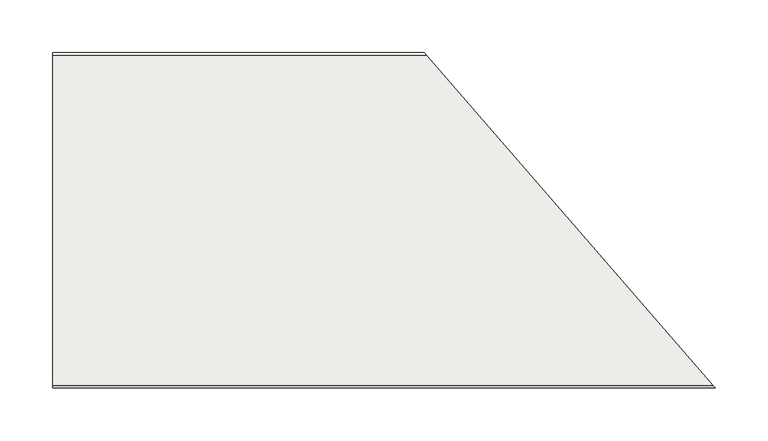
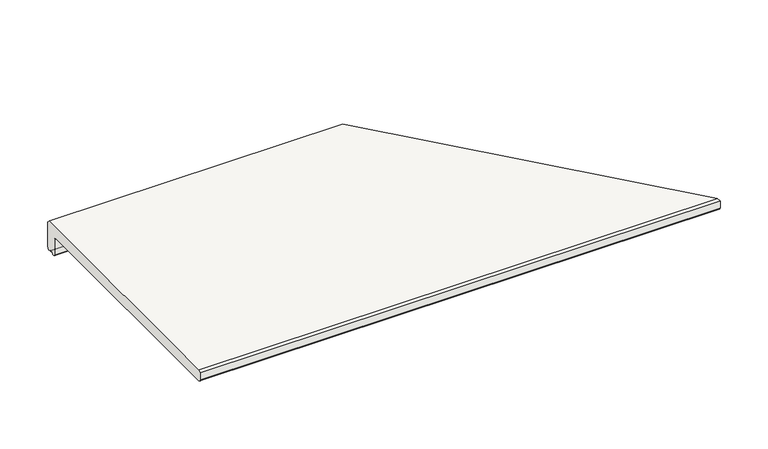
"""IFC4 building model written with IfcOpenShell, lengths in millimetres: slab geometry, ROSA GRES_L62 (corte-profundidad) : Pieza L62_Mistery_Grey_Anti-Slip."""

from ifc_helpers import new_model, si_unit, frame, origin, place, context, project, spatial, polyline, circle_curve, ellipse_curve, source, transform, mapped, element, save
from ifc_brep_helpers import plane_surface, cylinder_surface, revolved_surface, advanced_brep


def slab_cee870ff(model_context):
    return source(origin(), model_context, "Body", "AdvancedBrep", [
        advanced_brep(
        [(0.0, -11.8865989, -24.0), (0.0, -13.8100559, -22.076543), (0.0, -13.8100559, -2.5683173), (0.0, -16.4230659, 0.0446927), (0.0, -314.5178771, 0.0446927), (0.0, -317.0, 2.5268156), (0.0, -317.0, 11.5), (0.0, -314.5, 14.0), (0.0, -2.5, 14.0), (0.0, 0.0, 11.5), (0.0, 0.0, -20.5), (0.0, -2.5, -23.0), (0.0, -5.422949, -23.0), (0.0, -9.4124925, -23.0), (0.0, -9.4124925, -24.0), (359.1262294, -9.4124925, -24.0), (361.2693676, -11.8865989, -24.0), (355.6703784, -5.422949, -23.0), (359.1262294, -9.4124925, -23.0), (353.1384405, -2.5, -23.0), (350.9728726, 0.0, -20.5), (350.9728726, 0.0, 11.5), (623.4013185, -314.5, 14.0), (353.1384405, -2.5, 14.0), (625.5668864, -317.0, 2.5268156), (625.5668864, -317.0, 11.5), (623.4168041, -314.5178771, 0.0446927), (365.1989786, -16.4230659, 0.0446927), (362.9355183, -13.8100559, -2.5683173), (362.9355183, -13.8100559, -22.076543)],
        [
            (0, 1, circle_curve(frame((0.0, -11.8865989, -22.076543), z_axis=(-1.0, 0.0, 0.0), x_axis=(0.0, -1.0, 0.0)), 1.923457)),
            (1, 2),
            (2, 3, circle_curve(frame((0.0, -16.4230659, -2.5683173), z_axis=(1.0, 0.0, 0.0), x_axis=(0.0, -1.0, 0.0)), 2.6130101)),
            (3, 4),
            (4, 5, circle_curve(frame((0.0, -314.5178771, 2.5268156), z_axis=(-1.0, 0.0, 0.0), x_axis=(0.0, -1.0, 0.0)), 2.4821229)),
            (5, 6),
            (6, 7),
            (7, 8),
            (8, 9),
            (9, 10),
            (10, 11, circle_curve(frame((0.0, -2.5, -20.5), z_axis=(-1.0, 0.0, 0.0), x_axis=(0.0, -1.0, 0.0)), 2.5)),
            (11, 12),
            (12, 13, circle_curve(frame((0.0, -7.4177208, -23.0), z_axis=(1.0, 0.0, 0.0), x_axis=(0.0, -1.0, 0.0)), 1.9947717)),
            (13, 14),
            (14, 0),
            (14, 15),
            (15, 16),
            (16, 0),
            (12, 17),
            (17, 18, ellipse_curve(frame((357.3983039, -7.4177208, -23.0), z_axis=(0.7558534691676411, 0.654740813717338, 0.0), x_axis=(0.6547408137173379, -0.7558534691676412, 0.0)), 2.6390985, 1.9947717)),
            (18, 13),
            (11, 19),
            (19, 17),
            (10, 20),
            (20, 19, ellipse_curve(frame((353.1384405, -2.5, -20.5), z_axis=(-0.7558534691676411, -0.654740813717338, 0.0), x_axis=(-0.6547408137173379, 0.7558534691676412, 0.0)), 3.3075194, 2.5)),
            (9, 21),
            (21, 20),
            (7, 22),
            (22, 23),
            (23, 8),
            (5, 24),
            (24, 25),
            (25, 6),
            (4, 26),
            (26, 24, ellipse_curve(frame((623.4168041, -314.5178771, 2.5268156), z_axis=(-0.7558534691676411, -0.654740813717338, 0.0), x_axis=(-0.6547408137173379, 0.7558534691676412, 0.0)), 3.2838678, 2.4821229)),
            (3, 27),
            (27, 26),
            (2, 28),
            (28, 27, ellipse_curve(frame((365.1989786, -16.4230659, -2.5683173), z_axis=(0.7558534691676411, 0.654740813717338, 0.0), x_axis=(0.6547408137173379, -0.7558534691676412, 0.0)), 3.4570326, 2.6130101)),
            (1, 29),
            (29, 28),
            (16, 29, ellipse_curve(frame((361.2693676, -11.8865989, -22.076543), z_axis=(-0.7558534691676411, -0.654740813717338, 0.0), x_axis=(-0.6547408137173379, 0.7558534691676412, 0.0)), 2.5447485, 1.923457)),
            (23, 21),
            (25, 22),
            (18, 15),
        ],
        [
            plane_surface(frame((0.0, 0.0, 0.0), z_axis=(-1.0, 0.0, 0.0), x_axis=(0.0, 0.0, 1.0))),
            plane_surface(frame((0.0, -11.8865989, -24.0), z_axis=(0.0, 0.0, -1.0), x_axis=(1.0, 0.0, 0.0))),
            revolved_surface(polyline([(359.1262294, -9.412492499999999, -23.0), (0.0, -9.412492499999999, -23.0)]), (0.0, -7.4177208, -23.0), (1.0, 0.0, 0.0)),
            plane_surface(frame((0.0, -5.422949, -23.0), z_axis=(0.0, 0.0, -1.0), x_axis=(1.0, 0.0, 0.0))),
            cylinder_surface(frame((0.0, -2.5, -20.5), z_axis=(-1.0, 0.0, 0.0), x_axis=(0.0, -1.0, 0.0)), 2.5),
            plane_surface(frame((0.0, 0.0, -20.5), z_axis=(0.0, 1.0, 0.0), x_axis=(1.0, 0.0, 0.0))),
            plane_surface(frame((0.0, -2.5, 14.0), z_axis=(0.0, 0.0, 1.0), x_axis=(1.0, 0.0, 0.0))),
            plane_surface(frame((0.0, -317.0, 11.5), z_axis=(0.0, -1.0, 0.0), x_axis=(1.0, 0.0, 0.0))),
            cylinder_surface(frame((0.0, -314.5178771, 2.5268156), z_axis=(-1.0, 0.0, 0.0), x_axis=(0.0, -1.0, 0.0)), 2.4821229),
            plane_surface(frame((0.0, -314.5178771, 0.0446927), z_axis=(0.0, 0.0, -1.0), x_axis=(1.0, 0.0, 0.0))),
            revolved_surface(polyline([(367.46243893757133, -19.036076, -2.5683173), (0.0, -19.036076, -2.5683173)]), (0.0, -16.4230659, -2.5683173), (1.0, 0.0, 0.0)),
            plane_surface(frame((0.0, -13.8100559, -2.5683173), z_axis=(0.0, -1.0, 0.0), x_axis=(1.0, 0.0, 0.0))),
            cylinder_surface(frame((0.0, -11.8865989, -22.076543), z_axis=(-1.0, 0.0, 0.0), x_axis=(0.0, -1.0, 0.0)), 1.923457),
            plane_surface(frame((0.0, 0.0, 11.5), z_axis=(0.0, 0.7071067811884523, 0.7071067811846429), x_axis=(1.0, 0.0, 0.0))),
            plane_surface(frame((0.0, -314.5, 14.0), z_axis=(0.0, -0.7071067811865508, 0.7071067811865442), x_axis=(1.0, 0.0, 0.0))),
            plane_surface(frame((0.0, -9.4124925, -24.0), z_axis=(0.0, 1.0, 0.0), x_axis=(1.0, 0.0, 0.0))),
            plane_surface(frame((626.0, -317.5, 86.9871832), z_axis=(0.7558534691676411, 0.654740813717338, 0.0), x_axis=(0.0, 0.0, -1.0))),
        ],
        [
            (0, [[1, 2, 3, 4, 5, 6, 7, 8, 9, 10, 11, 12, 13, 14, 15]]),
            (1, [[16, 17, 18, -15]]),
            (2, [[19, 20, 21, -13]]),
            (3, [[22, 23, -19, -12]]),
            (4, [[24, 25, -22, -11]]),
            (5, [[26, 27, -24, -10]]),
            (6, [[28, 29, 30, -8]]),
            (7, [[31, 32, 33, -6]]),
            (8, [[34, 35, -31, -5]]),
            (9, [[36, 37, -34, -4]]),
            (10, [[38, 39, -36, -3]]),
            (11, [[40, 41, -38, -2]]),
            (12, [[-18, 42, -40, -1]]),
            (13, [[-30, 43, -26, -9]]),
            (14, [[-33, 44, -28, -7]]),
            (15, [[-21, 45, -16, -14]]),
            (16, [[-45, -20, -23, -25, -27, -43, -29, -44, -32, -35, -37, -39, -41, -42, -17]]),
        ],
    ),
    ])


if __name__ == "__main__":
    model = new_model("IFC4")
    model_context = context("Model", 3, world=origin())
    ifc_project = project(units=[si_unit("LENGTHUNIT", "METRE", prefix="MILLI")], contexts=[model_context])
    site = spatial("IfcSite", under=ifc_project)
    building = spatial("IfcBuilding", under=site)
    placement = place(None, origin())
    slab_shape = slab_cee870ff(model_context)
    element("IfcSlab", 1, ObjectType="ROSA GRES_L62 (corte-profundidad) : Pieza L62_Mistery_Grey_Anti-Slip", at=placement, inside=building, context=model_context, shape_type="MappedRepresentation", body=[
        mapped(slab_shape, transform((0.0, 0.0, 0.0), x_axis=(1.0, 0.0, 0.0), y_axis=(0.0, 1.0, 0.0), z_axis=(0.0, 0.0, 1.0))),
    ])
    save(model, "model.ifc")
